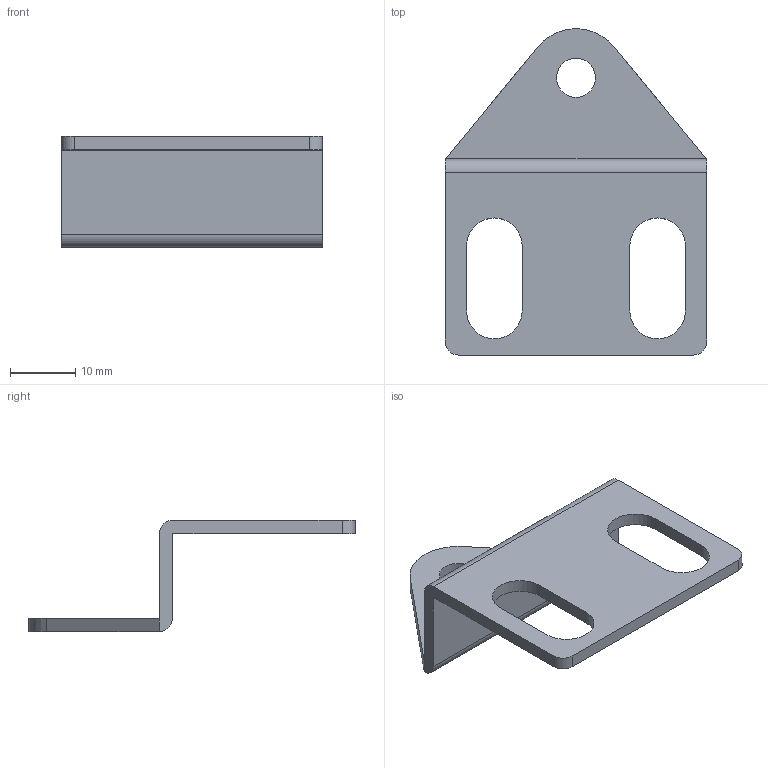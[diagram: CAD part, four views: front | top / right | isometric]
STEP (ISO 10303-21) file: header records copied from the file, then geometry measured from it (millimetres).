
FILE_DESCRIPTION (( 'STEP AP203' ), '1' );
FILE_NAME ('DML0640-N.STEP', '2018-08-31T06:26:12', ( '' ), ( '' ), 'SwSTEP 2.0', 'SolidWorks 2012', '' );
FILE_SCHEMA (( 'CONFIG_CONTROL_DESIGN' ));
Length unit declared in the file: millimetre
Products named in the file (1): DML0640-N
Bounding box: 40 x 49.98 x 17 mm (x, y, z)
Volume: 3839.2 mm3; surface area: 4429.2 mm2
Topology: 1 solids, 1 shells, 28 faces, 74 edges, 48 vertices
Faces by surface type: plane 15, cylinder 13
Entity records: 959 total; most frequent: CARTESIAN_POINT 157, DIRECTION 154, ORIENTED_EDGE 148, EDGE_CURVE 74, AXIS2_PLACEMENT_3D 53, LINE 48, VECTOR 48, VERTEX_POINT 48
